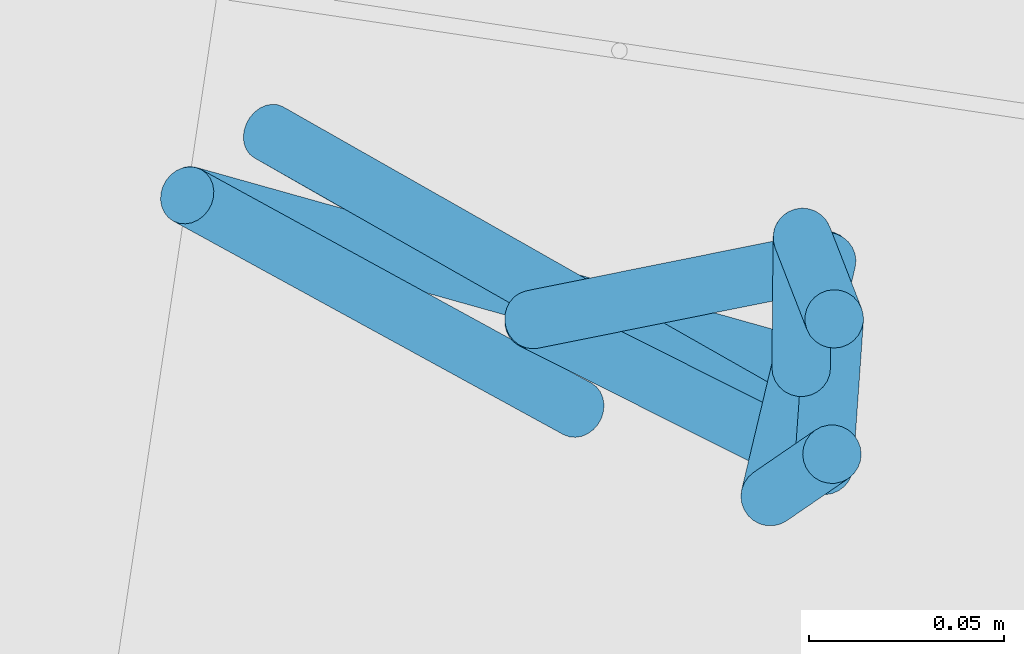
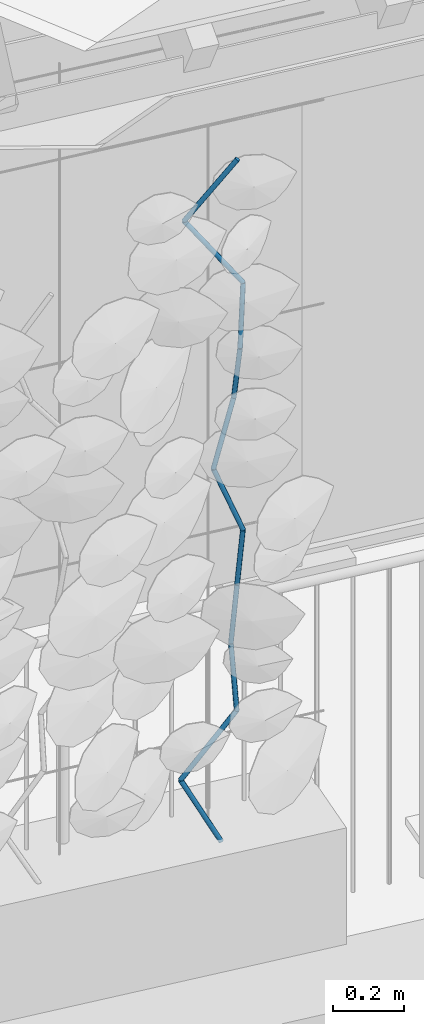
# One storey, part 112 of 131: 11 members, 1 element without a shape of its own.
"""IFC4 building model written with IfcOpenShell, lengths in metres."""

from ifc_helpers import new_model, si_unit, direction, frame, origin_with_axes, place, context, subcontext, project, spatial, circle, extrude, material, material_profile, profile_set, profile_usage, type_object, element, aggregate, save


model = new_model("IFC4")

# Units and contexts
model_context = context("Model", 3, precision=1e-05, world=origin_with_axes(), true_north=direction((0.0, 1.0)))
body_context = subcontext(model_context, "Body", "Model", "MODEL_VIEW")
ifc_project = project(units=[si_unit("VOLUMEUNIT", "CUBIC_METRE"), si_unit("LENGTHUNIT", "METRE"), si_unit("AREAUNIT", "SQUARE_METRE")], contexts=[model_context])

# Site, building, storey
site_placement = place(None, origin_with_axes())
site = spatial("IfcSite", under=ifc_project, at=site_placement, Name="Lares · Rua das Mercês · artigo 4771")
building_placement = place(site_placement, frame((15.0, 9.7, 15.8), z_axis=(0.0, 0.0, 1.0), x_axis=(0.989015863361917, -0.147809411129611, 0.0)))
building = spatial("IfcBuilding", under=site, at=building_placement, Name="Casa Sobreposta")
storey_placement = place(building_placement, origin_with_axes())
storey = spatial("IfcBuildingStorey", under=building, at=storey_placement, Name="00 · Habitação e estacionamento", Elevation=15.8)

# Assembly, members
assembly_placement = place(storey_placement, origin_with_axes())
assembly = element("IfcElementAssembly", 1, at=assembly_placement, inside=storey, Name="Fachada sul e pátio · estrutura e trepadeiras", ObjectType="LIVING_SHADE_TRELLIS", PredefinedType="USERDEFINED")
ifc_material = material(Name="Ramos de trepadeiras", Category="wood")
ifc_material_profile = material_profile(ifc_material, circle(Radius=0.0075))
ifc_profile_set = profile_set([ifc_material_profile], Name="D0.015")
ifc_profile_usage_1 = profile_usage(ifc_profile_set)
member_type = type_object("IfcMemberType", Name="D0.015 / vine_wood", PredefinedType="NOTDEFINED", material=ifc_profile_set)
member_1_placement = place(assembly_placement, frame((3.15289188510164, -1.70221202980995, 0.35), z_axis=(-0.444438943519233, 0.163440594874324, 0.880773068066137), x_axis=(0.345147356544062, 0.938548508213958, 0.0)))
member_1 = element("IfcMember", 2, at=member_1_placement, type_object=member_type, material=ifc_profile_usage_1, Name="Trepadeiras · ramo", context=body_context, shape_type="SweptSolid", body=[
    extrude(circle(Radius=0.0075), origin_with_axes(), (0.0, 0.0, 1.0), 0.240310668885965),
])
ifc_profile_usage_2 = profile_usage(ifc_profile_set)
member_2_placement = place(assembly_placement, frame((3.04608846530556, -1.66293551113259, 0.561659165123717), z_axis=(0.605775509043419, -0.0762897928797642, 0.791969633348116), x_axis=(-0.124950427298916, -0.992162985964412, 0.0)))
member_2 = element("IfcMember", 3, at=member_2_placement, type_object=member_type, material=ifc_profile_usage_2, Name="Trepadeiras · ramo", context=body_context, shape_type="SweptSolid", body=[
    extrude(circle(Radius=0.0075), origin_with_axes(), (0.0, 0.0, 1.0), 0.267256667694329),
])
ifc_profile_usage_3 = profile_usage(ifc_profile_set)
member_3_placement = place(assembly_placement, frame((3.20798600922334, -1.68332446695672, 0.773318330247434), z_axis=(-0.0216028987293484, 0.154162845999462, 0.987809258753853), x_axis=(0.990324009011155, 0.138774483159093, 0.0)))
member_3 = element("IfcMember", 4, at=member_3_placement, type_object=member_type, material=ifc_profile_usage_3, Name="Trepadeiras · ramo", context=body_context, shape_type="SweptSolid", body=[
    extrude(circle(Radius=0.0075), origin_with_axes(), (0.0, 0.0, 1.0), 0.214271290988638),
])
ifc_profile_usage_4 = profile_usage(ifc_profile_set)
member_4_placement = place(assembly_placement, frame((3.20335712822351, -1.65029179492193, 0.984977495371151), z_axis=(0.0522794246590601, -0.0913685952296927, 0.994443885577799), x_axis=(-0.867961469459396, -0.496631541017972, 0.0)))
member_4 = element("IfcMember", 5, at=member_4_placement, type_object=member_type, material=ifc_profile_usage_4, Name="Trepadeiras · ramo", context=body_context, shape_type="SweptSolid", body=[
    extrude(circle(Radius=0.0075), origin_with_axes(), (0.0, 0.0, 1.0), 0.212841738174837),
])
ifc_profile_usage_5 = profile_usage(ifc_profile_set)
member_5_placement = place(assembly_placement, frame((3.21448437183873, -1.66973884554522, 1.19663666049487), z_axis=(0.0136662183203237, -0.174807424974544, 0.984507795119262), x_axis=(-0.996957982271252, -0.077940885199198, 0.0)))
member_5 = element("IfcMember", 6, at=member_5_placement, type_object=member_type, material=ifc_profile_usage_5, Name="Trepadeiras · ramo", context=body_context, shape_type="SweptSolid", body=[
    extrude(circle(Radius=0.0075), origin_with_axes(), (0.0, 0.0, 1.0), 0.214989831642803),
])
ifc_profile_usage_6 = profile_usage(ifc_profile_set)
member_6_placement = place(assembly_placement, frame((3.21742246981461, -1.7073206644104, 1.40829582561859), z_axis=(-0.348552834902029, 0.114288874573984, 0.930295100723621), x_axis=(0.31157345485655, 0.950222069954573, 0.0)))
member_6 = element("IfcMember", 7, at=member_6_placement, type_object=member_type, material=ifc_profile_usage_6, Name="Trepadeiras · ramo", context=body_context, shape_type="SweptSolid", body=[
    extrude(circle(Radius=0.0075), origin_with_axes(), (0.0, 0.0, 1.0), 0.227518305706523),
])
ifc_profile_usage_7 = profile_usage(ifc_profile_set)
member_7_placement = place(assembly_placement, frame((3.13812031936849, -1.68131785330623, 1.6199549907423), z_axis=(0.320866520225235, 0.115973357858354, 0.939997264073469), x_axis=(0.339916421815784, -0.940455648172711, 0.0)))
member_7 = element("IfcMember", 8, at=member_7_placement, type_object=member_type, material=ifc_profile_usage_7, Name="Trepadeiras · ramo", context=body_context, shape_type="SweptSolid", body=[
    extrude(circle(Radius=0.0075), origin_with_axes(), (0.0, 0.0, 1.0), 0.225169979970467),
])
ifc_profile_usage_8 = profile_usage(ifc_profile_set)
member_8_placement = place(assembly_placement, frame((3.2103698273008, -1.65520413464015, 1.83161415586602), z_axis=(-0.0243191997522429, -0.280679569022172, 0.959493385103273), x_axis=(-0.996267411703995, 0.0863205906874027, 2.95397876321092e-18)))
member_8 = element("IfcMember", 9, at=member_8_placement, type_object=member_type, material=ifc_profile_usage_8, Name="Trepadeiras · ramo", context=body_context, shape_type="SweptSolid", body=[
    extrude(circle(Radius=0.0075), origin_with_axes(), (0.0, 0.0, 1.0), 0.22059471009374),
])
ifc_profile_usage_9 = profile_usage(ifc_profile_set)
member_9_placement = place(assembly_placement, frame((3.20500514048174, -1.71712056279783, 2.04327332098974), z_axis=(0.066014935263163, 0.0614364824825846, 0.995925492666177), x_axis=(0.681265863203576, -0.732036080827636, 0.0)))
member_9 = element("IfcMember", 10, at=member_9_placement, type_object=member_type, material=ifc_profile_usage_9, Name="Trepadeiras · ramo", context=body_context, shape_type="SweptSolid", body=[
    extrude(circle(Radius=0.0075), origin_with_axes(), (0.0, 0.0, 1.0), 0.212525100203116),
])
ifc_profile_usage_10 = profile_usage(ifc_profile_set)
member_10_placement = place(assembly_placement, frame((3.21903497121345, -1.7040637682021, 2.25493248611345), z_axis=(-0.575178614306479, 0.223607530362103, 0.786873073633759), x_axis=(0.362343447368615, 0.93204464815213, 0.0)))
member_10 = element("IfcMember", 11, at=member_10_placement, type_object=member_type, material=ifc_profile_usage_10, Name="Trepadeiras · ramo", context=body_context, shape_type="SweptSolid", body=[
    extrude(circle(Radius=0.0075), origin_with_axes(), (0.0, 0.0, 1.0), 0.268987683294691),
])
ifc_profile_usage_11 = profile_usage(ifc_profile_set)
member_11_placement = place(assembly_placement, frame((3.0643190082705, -1.64391609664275, 2.46659165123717), z_axis=(0.540255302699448, -0.208302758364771, 0.815312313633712), x_axis=(-0.359749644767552, -0.933048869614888, 0.0)))
member_11 = element("IfcMember", 12, at=member_11_placement, type_object=member_type, material=ifc_profile_usage_11, Name="Trepadeiras · ramo", context=body_context, shape_type="SweptSolid", body=[
    extrude(circle(Radius=0.0075), origin_with_axes(), (0.0, 0.0, 1.0), 0.259605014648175),
])
aggregate(assembly, [member_1, member_2, member_3, member_4, member_5, member_6, member_7, member_8, member_9, member_10, member_11])

save(model, "model.ifc")
